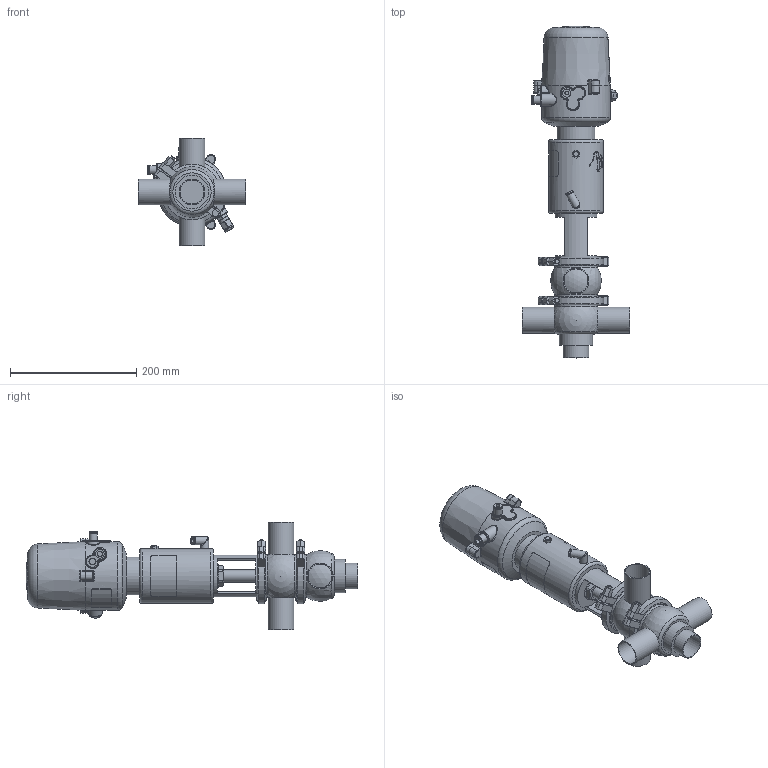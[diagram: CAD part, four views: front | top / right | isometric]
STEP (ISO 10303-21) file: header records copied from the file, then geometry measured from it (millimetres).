
FILE_DESCRIPTION (( 'STEP AP214' ), '1' );
FILE_NAME ('INNOVA K G W DIN 040 T1 AS NC & C-TOP S_10.240.16.0082.STEP', '2024-08-06T09:03:48', ( '' ), ( '' ), 'SwSTEP 2.0', 'SolidWorks 2023', '' );
FILE_SCHEMA (( 'AUTOMOTIVE_DESIGN' ));
Length unit declared in the file: millimetre
Products named in the file (8): 10.426.15.0001_C-TOP S - 1 EV; 10.240.15.0017_Estàndard; 10.240.15.0007_DIN 040; 10.240.15.0010_DN 040; INNOVA K G W DIN 040 T1 AS NC & C-TOP S_10.240.16.0082; 10.240.15.0014_T1 AS P0; 10.240.15.0003_DIN 040; 10.240.15.0001_DN 040
Assembly tree (8 placements, depth 2):
  INNOVA K G W DIN 040 T1 AS NC & C-TOP S_10.240.16.0082
    10.240.15.0007_DIN 040
    10.240.15.0003_DIN 040
    10.240.15.0010_DN 040
    10.240.15.0014_T1 AS P0
    10.240.15.0017_Estàndard
    10.426.15.0001_C-TOP S - 1 EV
    10.240.15.0001_DN 040  x2
Bounding box: 170 x 526 x 170 mm (x, y, z)
Volume: 2884909.6 mm3; surface area: 305855.3 mm2
Topology: 8 solids, 8 shells, 1182 faces, 2853 edges, 1900 vertices
Faces by surface type: plane 412, cylinder 360, cone 201, bspline 160, torus 39, sphere 10
Full cylindrical faces by diameter (mm): 0.371 x17, 0.512 x16, 0.658 x16, 0.795 x16, 0.94 x15, 1.098 x15, 1.241 x13, 1.382 x13, 1.523 x11, 1.669 x10, 2.201 x1, 4 x2, 5.5 x2, 6 x2, 6.15 x1, 8 x6, 8.5 x1, 10 x1, 10.5 x1, 11 x2, 12.5 x3, 13 x2, 13.5 x2, 16 x1, 17 x3, 20 x3, 20.5 x1, 22 x2, 31 x1, 34.5 x3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
Entity records: 57211 total; most frequent: CARTESIAN_POINT 26830, ORIENTED_EDGE 4538, DIRECTION 3689, EDGE_CURVE 2269, VERTEX_POINT 1616, EDGE_LOOP 1587, AXIS2_PLACEMENT_3D 1516, FACE_OUTER_BOUND 1345
